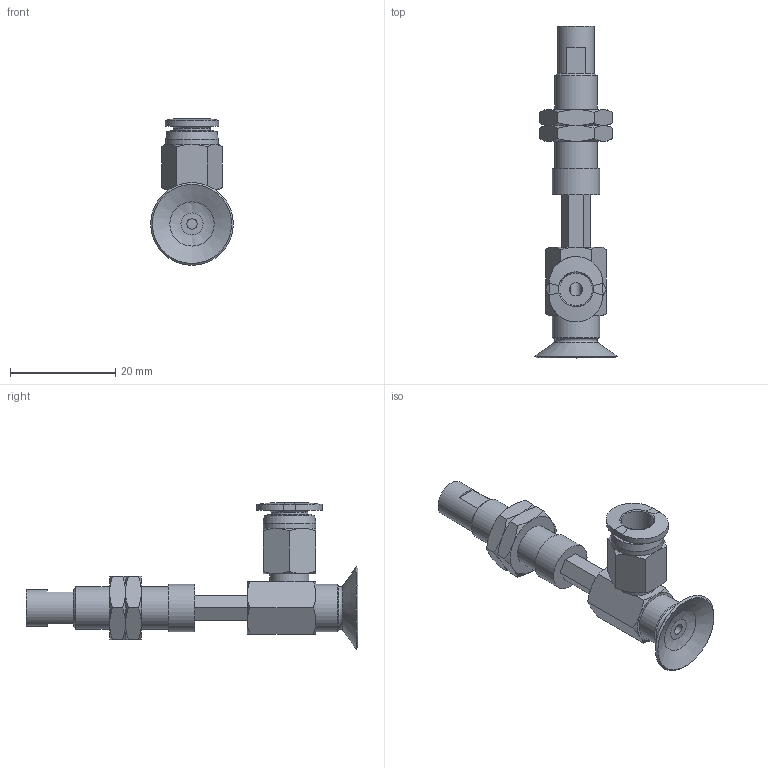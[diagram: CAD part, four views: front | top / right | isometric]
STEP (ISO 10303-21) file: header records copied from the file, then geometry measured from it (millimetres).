
FILE_DESCRIPTION(('STEP AP203'),'1');
FILE_NAME('-O.stp','2025-04-10T07:34:28',(' '),(' '),'Spatial InterOp 3D',' ',' ');
FILE_SCHEMA(('CONFIG_CONTROL_DESIGN'));
Length unit declared in the file: millimetre
Products named in the file (7): BNABPFYH-15A-10-※-O; CONNECTOR-H-15A-10; Nut-15A-10-h; NAPFTH-15A-10-FBODY; NAPFTH-15A-10-MBODY; BPFG-15A-※; PC-C_06-M5
Assembly tree (7 placements, depth 2):
  BNABPFYH-15A-10-※-O
    CONNECTOR-H-15A-10
    Nut-15A-10-h  x2
    NAPFTH-15A-10-FBODY
    NAPFTH-15A-10-MBODY
    BPFG-15A-※
    PC-C_06-M5
Bounding box: 15.7 x 63 x 27.83 mm (x, y, z)
Volume: 3613.9 mm3; surface area: 5546.2 mm2
Topology: 6 solids, 9 shells, 190 faces, 402 edges, 244 vertices
Faces by surface type: plane 80, cone 67, cylinder 24, torus 11, bspline 5, revolution 3
Full cylindrical faces by diameter (mm): 2 x2, 4 x4, 4.134 x2, 5 x2, 6 x2, 7 x2, 7.188 x2, 7.4 x1, 8 x1, 8.2 x1, 9 x2, 10 x1
Entity records: 4979 total; most frequent: CARTESIAN_POINT 1401, DIRECTION 663, ORIENTED_EDGE 586, EDGE_CURVE 295, AXIS2_PLACEMENT_3D 283, EDGE_LOOP 244, VERTEX_POINT 207, FACE_OUTER_BOUND 140
